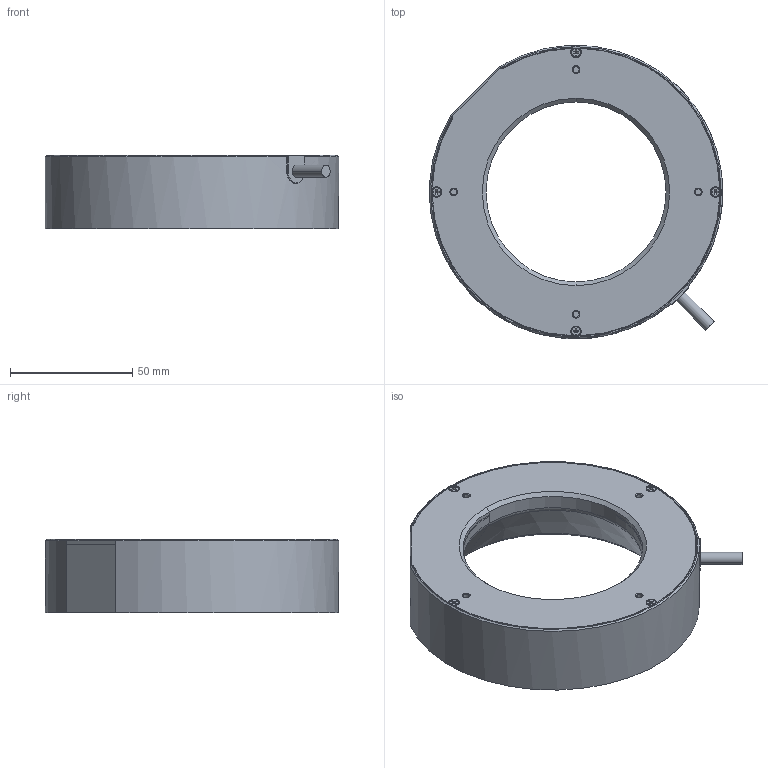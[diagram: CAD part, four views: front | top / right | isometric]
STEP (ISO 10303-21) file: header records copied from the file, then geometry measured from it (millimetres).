
FILE_DESCRIPTION((''),'2;1');
FILE_NAME('MV-LRDS-H-120-30-W','2022-09-02T15:52:37',('qiaoxuan5'),(''),'CREO PARAMETRIC BY PTC INC, 2020044','CREO PARAMETRIC BY PTC INC, 2020044','');
FILE_SCHEMA(('CONFIG_CONTROL_DESIGN'));
Length unit declared in the file: metre
Products named in the file (1): MV-LRDS-H-120-30-W
Bounding box: 119.92 x 119.92 x 30 mm (x, y, z)
Volume: 172449.4 mm3; surface area: 45927 mm2
Topology: 1 solids, 18 shells, 527 faces, 1251 edges, 737 vertices
Faces by surface type: plane 265, cylinder 150, cone 82, torus 24, sphere 6
Entity records: 15052 total; most frequent: CARTESIAN_POINT 2897, DIRECTION 2600, ORIENTED_EDGE 2458, EDGE_CURVE 1229, AXIS2_PLACEMENT_3D 936, VERTEX_POINT 737, VECTOR 728, LINE 728
